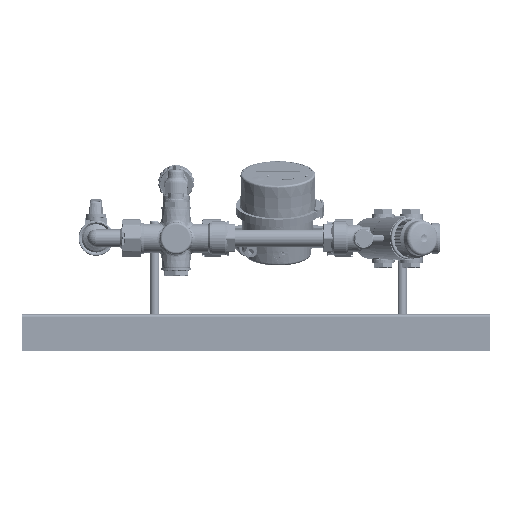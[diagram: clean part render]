
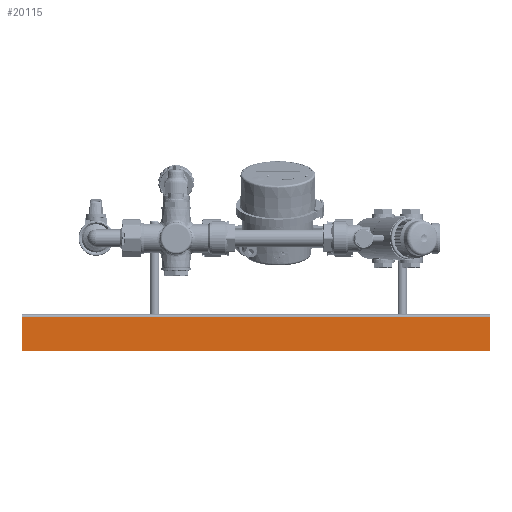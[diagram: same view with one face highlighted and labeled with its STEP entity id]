
A CAD part, left-side view. The second image highlights one B-rep face of the part: STEP entity #20115.
In plain terms, the highlighted planar face has unit normal (-1, 0, 0) as drawn and (1, 0, 0) by its records, which use the part's own axes.
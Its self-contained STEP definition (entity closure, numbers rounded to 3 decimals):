
#20115=ADVANCED_FACE('',(#113111),#113113,.T.);
#113111=FACE_BOUND('',#113112,.T.);
#113112=EDGE_LOOP('',(#149649,#149650,#149651,#149652));
#113113=PLANE('',#113114);
#113114=AXIS2_PLACEMENT_3D('',#113115,#113116,#113117);
#113115=CARTESIAN_POINT('',(15.5,-400.,-2.5));
#113116=DIRECTION('',(1.,0.,0.));
#113117=DIRECTION('',(0.,0.,-1.));
#149649=ORIENTED_EDGE('',*,*,#166222,.T.);
#149650=ORIENTED_EDGE('',*,*,#166250,.T.);
#149651=ORIENTED_EDGE('',*,*,#166240,.F.);
#149652=ORIENTED_EDGE('',*,*,#166247,.F.);
#166222=EDGE_CURVE('',#193817,#193814,#193818,.T.);
#166240=EDGE_CURVE('',#193846,#193848,#193849,.T.);
#166247=EDGE_CURVE('',#193817,#193846,#193856,.T.);
#166250=EDGE_CURVE('',#193814,#193848,#193859,.T.);
#193814=VERTEX_POINT('',#310903);
#193817=VERTEX_POINT('',#310908);
#193818=LINE('',#310909,#310910);
#193846=VERTEX_POINT('',#310978);
#193848=VERTEX_POINT('',#310983);
#193849=LINE('',#310984,#310985);
#193856=LINE('',#311005,#311006);
#193859=LINE('',#311014,#311015);
#310903=CARTESIAN_POINT('',(15.5,-400.,-31.2));
#310908=CARTESIAN_POINT('',(15.5,-400.,-2.5));
#310909=CARTESIAN_POINT('',(15.5,-400.,-2.5));
#310910=VECTOR('',#310911,1.);
#310911=DIRECTION('',(0.,0.,-1.));
#310978=CARTESIAN_POINT('',(15.5,0.,-2.5));
#310983=CARTESIAN_POINT('',(15.5,0.,-31.2));
#310984=CARTESIAN_POINT('',(15.5,0.,-2.5));
#310985=VECTOR('',#310986,1.);
#310986=DIRECTION('',(0.,0.,-1.));
#311005=CARTESIAN_POINT('',(15.5,-400.,-2.5));
#311006=VECTOR('',#311007,1.);
#311007=DIRECTION('',(0.,1.,0.));
#311014=CARTESIAN_POINT('',(15.5,-400.,-31.2));
#311015=VECTOR('',#311016,1.);
#311016=DIRECTION('',(0.,1.,0.));
